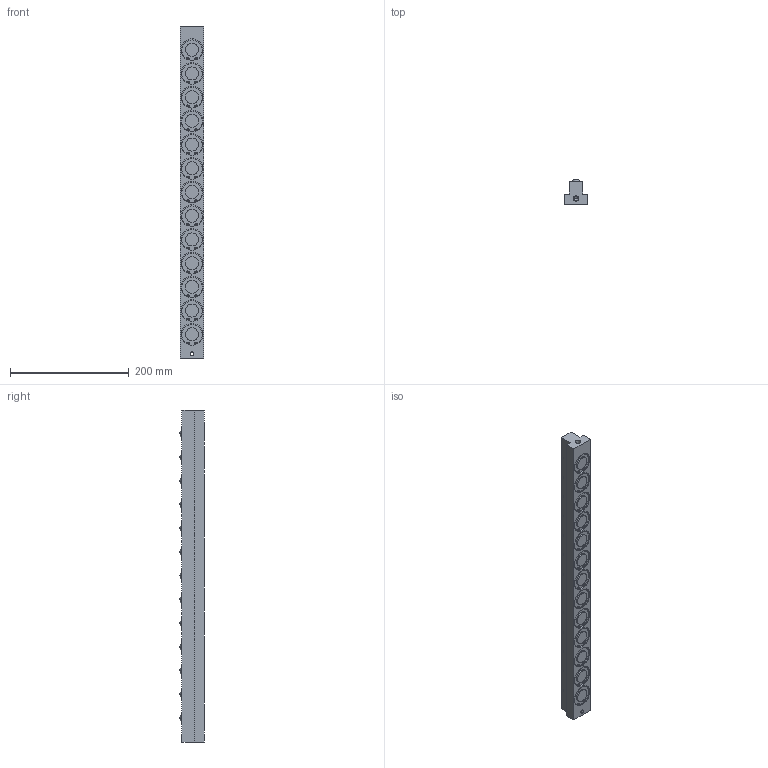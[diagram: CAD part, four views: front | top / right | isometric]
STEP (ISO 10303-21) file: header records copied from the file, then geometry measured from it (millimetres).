
FILE_DESCRIPTION (( 'STEP AP203' ), '1' );
FILE_NAME ('PVL30T-13.STEP', '2015-12-24T08:33:45', ( '' ), ( '' ), 'SwSTEP 2.0', 'SolidWorks 2013', '' );
FILE_SCHEMA (( 'CONFIG_CONTROL_DESIGN' ));
Length unit declared in the file: millimetre
Products named in the file (1): PVL30T-13
Bounding box: 40 x 42 x 560 mm (x, y, z)
Volume: 633469.3 mm3; surface area: 106337.1 mm2
Topology: 1 solids, 1 shells, 425 faces, 1079 edges, 722 vertices
Faces by surface type: cylinder 266, plane 129, sphere 26, cone 4
Entity records: 13274 total; most frequent: DIRECTION 2595, CARTESIAN_POINT 2225, ORIENTED_EDGE 2154, AXIS2_PLACEMENT_3D 1092, EDGE_CURVE 1077, VERTEX_POINT 722, CIRCLE 666, EDGE_LOOP 495
